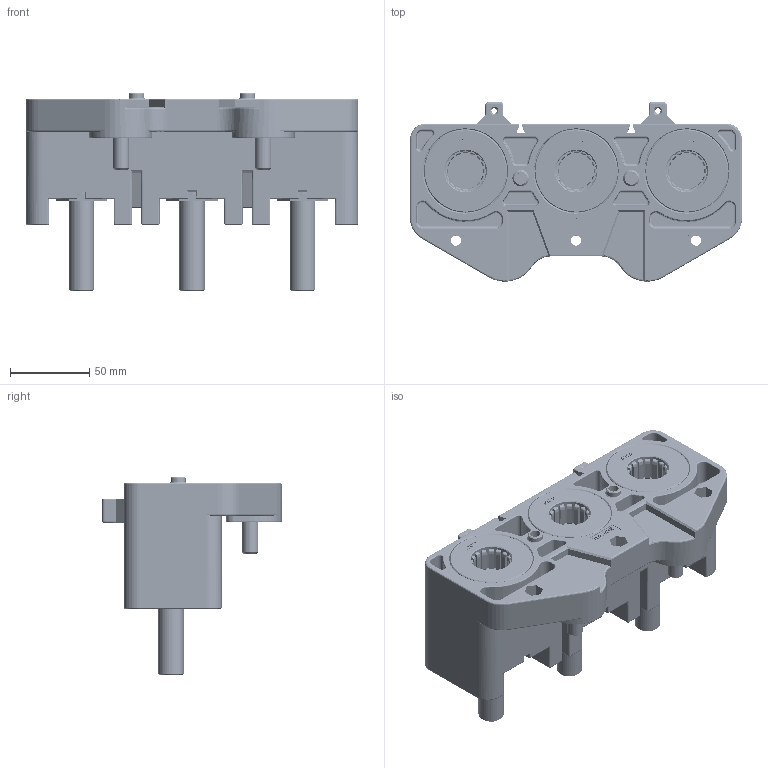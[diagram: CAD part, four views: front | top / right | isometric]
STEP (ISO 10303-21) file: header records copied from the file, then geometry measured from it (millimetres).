
FILE_DESCRIPTION(/* description */ (''),/* implementation_level */ '2;1');
FILE_NAME(/* name */ 'TDM 80GP F3_3D DATA.stp',/* time_stamp */ '2018-04-26T13:12:27+09:00',/* author */ (''),/* organization */ (''),/* preprocessor_version */ 'ST-DEVELOPER v15',/* originating_system */ 'SIEMENS PLM Software NX 9.0',/* authorisation */ '');
FILE_SCHEMA (('AP203_CONFIGURATION_CONTROLLED_3D_DESIGN_OF_MECHANICAL_PARTS_AND_ASSEMBLIES_MIM_LF { 1 0 10303 403 2 1 2}'));
Products named in the file (11): CONNECTED_SPRING_80GP_R00; PC-STUD BOLT M16xL78_R00; GP4-MO-9002_R01; GP4-PG-9001_R00; GC4-PR-9001_R00; STOPPER(4ME-04757)_R00; FIX PLATE(4ME-04758)_R00; GP4-MO-9001_R03; GP4-AS-9001_R00; GP4-CP-9002_R00
Assembly tree (32 placements, depth 4):
  GP4-CP-9002_R00
    GP4-CP-9002_R00
      GP4-AS-9001_R00  x3
        GC4-PR-9001_R00
        GP4-PG-9001_R00
        GP4-MO-9002_R01
        PC-STUD BOLT M16xL78_R00
        CONNECTED_SPRING_80GP_R00
      GP4-MO-9001_R03
      FIX PLATE(4ME-04758)_R00  x3
      STOPPER(4ME-04757)_R00  x3
Bounding box: 210 x 113.5 x 125.41 mm (x, y, z)
Volume: 792883.1 mm3; surface area: 267913.7 mm2
Topology: 72 solids, 78 shells, 6022 faces, 18816 edges, 17248 vertices
Faces by surface type: torus 2779, cylinder 1479, plane 1228, bspline 337, extrusion 79, cone 64, sphere 56
Full cylindrical faces by diameter (mm): 3.5 x2, 6.5 x5, 9.4 x2, 10 x4, 11.8 x3, 14 x3, 14.5 x3, 16 x3, 26 x3, 28 x9, 52.5 x3, 53 x3
Entity records: 101876 total; most frequent: CARTESIAN_POINT 53180, DIRECTION 9575, ORIENTED_EDGE 7472, EDGE_CURVE 3738, B_SPLINE_CURVE_WITH_KNOTS 3689, AXIS2_PLACEMENT_3D 3432, VECTOR 2711, LINE 2666
